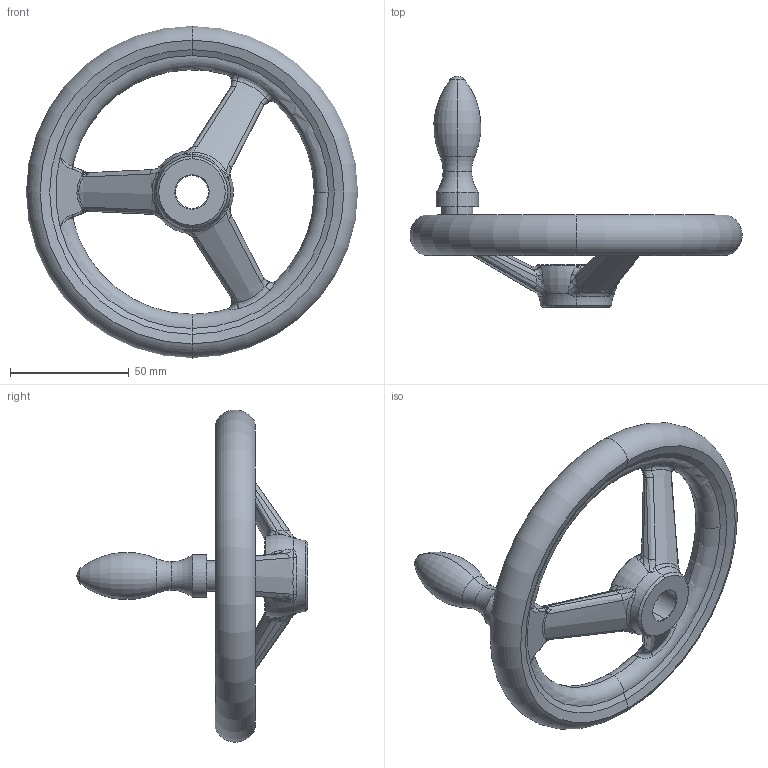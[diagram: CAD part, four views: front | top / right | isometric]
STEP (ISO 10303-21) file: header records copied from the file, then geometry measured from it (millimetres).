
FILE_DESCRIPTION (( 'STEP AP203' ), '1' );
FILE_NAME ('din950_d4_140x14.step', '2015-02-02T09:40:09', ( 'Magnus' ), ( 'Microsoft' ), 'SwSTEP 2.0', 'SolidWorks 2014', '' );
FILE_SCHEMA (( 'CONFIG_CONTROL_DESIGN' ));
Length unit declared in the file: millimetre
Products named in the file (1): din950_d4_140x14
Bounding box: 139.94 x 97.5 x 139.94 mm (x, y, z)
Volume: 127986.4 mm3; surface area: 32656.4 mm2
Topology: 1 solids, 1 shells, 208 faces, 508 edges, 275 vertices
Faces by surface type: bspline 140, torus 28, cone 16, cylinder 11, plane 11, sphere 2
Entity records: 10928 total; most frequent: CARTESIAN_POINT 7100, ORIENTED_EDGE 970, DIRECTION 544, EDGE_CURVE 485, VERTEX_POINT 275, B_SPLINE_CURVE_WITH_KNOTS 265, AXIS2_PLACEMENT_3D 259, EDGE_LOOP 212
